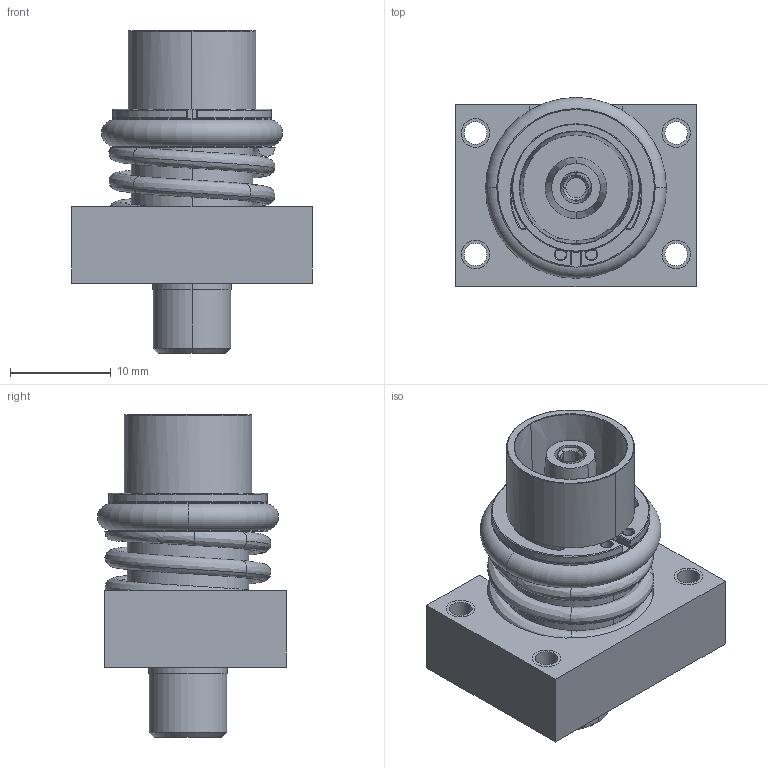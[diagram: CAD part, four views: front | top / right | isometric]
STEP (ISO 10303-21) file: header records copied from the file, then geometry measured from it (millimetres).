
FILE_DESCRIPTION((''),'2;1');
FILE_NAME('L1122','2019-11-21T09:27:25',('paul.nurczyk'),('Carlisle Interconnect Technologies'),'CREO PARAMETRIC BY PTC INC, 2017260','CREO PARAMETRIC BY PTC INC, 2017260','');
FILE_SCHEMA(('AUTOMOTIVE_DESIGN { 1 0 10303 214 1 1 1 1 }'));
Length unit declared in the file: inch
Products named in the file (1): L1122
Bounding box: 23.88 x 18.77 x 32.08 mm (x, y, z)
Volume: 5134.8 mm3; surface area: 5345.1 mm2
Topology: 1 solids, 5 shells, 390 faces, 1044 edges, 666 vertices
Faces by surface type: plane 164, bspline 93, cylinder 75, torus 34, cone 20, sphere 4
Entity records: 19106 total; most frequent: CARTESIAN_POINT 7180, ORIENTED_EDGE 2072, DIRECTION 1878, EDGE_CURVE 1044, AXIS2_PLACEMENT_3D 772, VERTEX_POINT 666, CIRCLE 474, EDGE_LOOP 420
